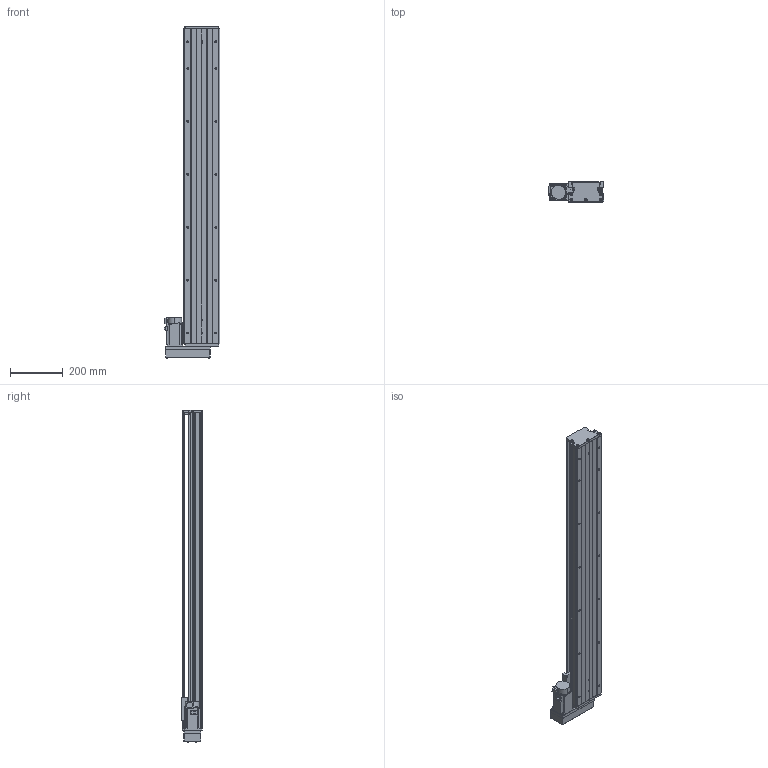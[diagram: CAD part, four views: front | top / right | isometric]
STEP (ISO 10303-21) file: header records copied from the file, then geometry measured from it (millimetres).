
FILE_DESCRIPTION (( 'STEP AP203' ), '1' );
FILE_NAME ('KTH130-1050-BL-M40-C4.step', '2023-06-30T03:57:24', ( '微软用户' ), ( '微软中国' ), 'SwSTEP 2.0', 'SolidWorks 2020', '' );
FILE_SCHEMA (( 'CONFIG_CONTROL_DESIGN' ));
Length unit declared in the file: millimetre
Products named in the file (19): GBT70.1 M5℅16; す晦芛蹟隊 M3℅5; GBT 70.2-M3¡Á5_M3¡Á6; GBT 70.3-M3℅8; GTH14-001_1050; CTHA60-017; HG-KN43J-S100; KTH130-002_KTH130-002; EE_SX911P_R; GBT 70.2-M4¡Á35_M4¡Á35; KTH130-004; CTHA60-016; GTH14-015-2_CTHA86-015-2; KTH130-005; GBT 70.1-M3℅5; GTH14-033; GB1155-6X6; GBT77-2000 M3×3; KTH130-1050-BL-M40-C4
Assembly tree (53 placements, depth 2):
  KTH130-1050-BL-M40-C4
    GTH14-001_1050
    KTH130-002_KTH130-002
    KTH130-004
    KTH130-005
    GB1155-6X6  x2
    GBT70.1 M5℅16  x10
    GBT 70.2-M3¡Á5_M3¡Á6  x4
    CTHA60-017  x3
    EE_SX911P_R  x3
    CTHA60-016  x2
    GBT 70.1-M3℅5  x6
    GBT77-2000 M3×3  x6
    す晦芛蹟隊 M3℅5  x2
    GBT 70.3-M3℅8  x4
    HG-KN43J-S100
    GBT 70.2-M4¡Á35_M4¡Á35  x4
    GTH14-015-2_CTHA86-015-2
    GTH14-033
Bounding box: 209.3 x 78 x 1254.2 mm (x, y, z)
Volume: 6943637.3 mm3; surface area: 1092490.1 mm2
Topology: 56 solids, 56 shells, 2243 faces, 5414 edges, 3374 vertices
Faces by surface type: plane 1201, cylinder 628, cone 290, torus 100, sphere 24
Entity records: 41174 total; most frequent: CARTESIAN_POINT 8734, DIRECTION 6159, ORIENTED_EDGE 6028, EDGE_CURVE 3014, AXIS2_PLACEMENT_3D 2130, VERTEX_POINT 1927, LINE 1899, VECTOR 1899
